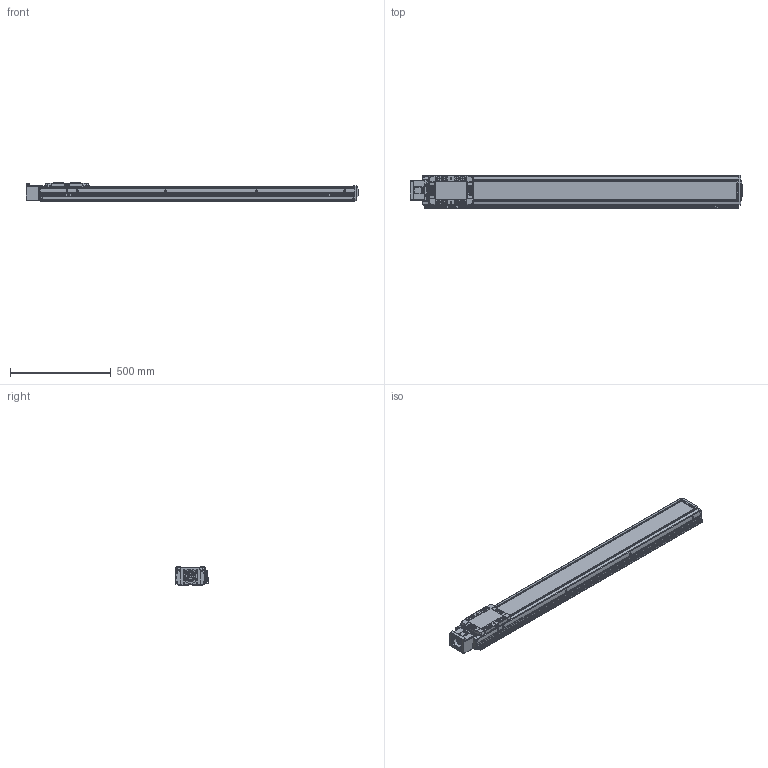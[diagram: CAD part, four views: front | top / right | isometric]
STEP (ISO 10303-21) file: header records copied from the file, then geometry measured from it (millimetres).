
FILE_DESCRIPTION(('STEP AP214'),'1');
FILE_NAME('Z:/Web/3D/SAN150/2013.04 (STP.)/SAN150ㅁㅁ-1300S+3SR.stp','2013-05-07T08:32:53',(' '),(' '),'Spatial InterOp 3D',' ',' ');
FILE_SCHEMA(('automotive_design'));
Length unit declared in the file: millimetre
Products named in the file (97): M3.0 x 6.0; SRL-16x17-360L; SGD-SAN150; EE-SX674; SBK-SX674-352; 스크루 : Round - M3.0 x 6.0; BHCS M4.0 x 10.0; SLBL-SAN150; SLCV-SAN150; FHCS M4.0 x 8.0; SFX-SAN150; RRCV-SAN150; FRBL-SAN150; Spacer; RN15; FRCV-SAN150; Screw 20; BASE-SAN150-000L ; SUS COVER; 스크루 : Round - M5.0 x 6.0; BHCS M3.0 x 6.0; SSFX-SAN65; CPLCV-SAN65; SDWA47C(2); SDWA47C(3-1); SDWA47C(3); SDWA47C(1); SDWA47C(4); SDWA47C(5); MTHZ-SAN150-80
Bounding box: 1649 x 166 x 90 mm (x, y, z)
Volume: 8741704.7 mm3; surface area: 1785630.3 mm2
Topology: 97 solids, 97 shells, 3600 faces, 9345 edges, 6031 vertices
Faces by surface type: plane 1625, cylinder 1377, cone 469, sphere 84, bspline 29, torus 16
Entity records: 145248 total; most frequent: CARTESIAN_POINT 23727, DIRECTION 20223, ORIENTED_EDGE 18402, EDGE_CURVE 9201, AXIS2_PLACEMENT_3D 7546, VERTEX_POINT 6031, LINE 5131, VECTOR 5131
